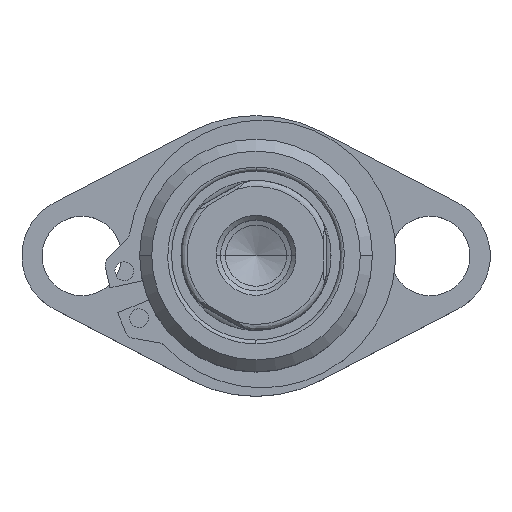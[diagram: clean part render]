
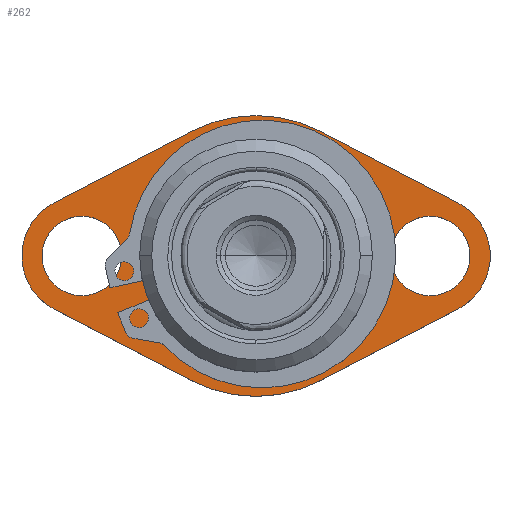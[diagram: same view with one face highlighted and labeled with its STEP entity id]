
A CAD part, top view. The second image highlights one B-rep face of the part: STEP entity #262.
In plain terms, the highlighted planar face has unit normal (0, 0, 1) as drawn and (0, 1, 0) by its records, which use the part's own axes.
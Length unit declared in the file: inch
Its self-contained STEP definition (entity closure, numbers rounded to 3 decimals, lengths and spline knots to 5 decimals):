
#82 = VERTEX_POINT ( 'NONE', #3162 ) ;
#120 = CARTESIAN_POINT ( 'NONE',  ( -0.43123, 0.25, -0.82962 ) ) ;
#127 = CARTESIAN_POINT ( 'NONE',  ( -1.16, 0.25, 0. ) ) ;
#140 = ORIENTED_EDGE ( 'NONE', *, *, #318, .F. ) ;
#168 = ORIENTED_EDGE ( 'NONE', *, *, #2262, .T. ) ;
#173 = CARTESIAN_POINT ( 'NONE',  ( -1.16, 0.25, -0.265 ) ) ;
#251 = EDGE_CURVE ( 'NONE', #355, #4734, #4829, .T. ) ;
#262 = ADVANCED_FACE ( 'NONE', ( #885, #1695, #4458, #4526 ), #2092, .T. ) ;
#266 = AXIS2_PLACEMENT_3D ( 'NONE', #3264, #2133, #3680 ) ;
#299 = AXIS2_PLACEMENT_3D ( 'NONE', #3483, #4636, #1093 ) ;
#302 = CARTESIAN_POINT ( 'NONE',  ( 0.43123, 0.25, 0.82962 ) ) ;
#309 = EDGE_CURVE ( 'NONE', #82, #2318, #3432, .T. ) ;
#318 = EDGE_CURVE ( 'NONE', #82, #3837, #4950, .T. ) ;
#351 = EDGE_CURVE ( 'NONE', #1762, #3799, #4335, .T. ) ;
#355 = VERTEX_POINT ( 'NONE', #3709 ) ;
#537 = EDGE_CURVE ( 'NONE', #3799, #1762, #4259, .T. ) ;
#546 = CIRCLE ( 'NONE', #3890, 0.265 ) ;
#547 = CARTESIAN_POINT ( 'NONE',  ( -1.34448, 0.25, -0.35492 ) ) ;
#563 = DIRECTION ( 'NONE',  ( 0., -1., 0. ) ) ;
#591 = DIRECTION ( 'NONE',  ( 0., 0., -1. ) ) ;
#622 = CIRCLE ( 'NONE', #3688, 0.265 ) ;
#761 = CIRCLE ( 'NONE', #1559, 0.265 ) ;
#782 = ORIENTED_EDGE ( 'NONE', *, *, #251, .T. ) ;
#802 = DIRECTION ( 'NONE',  ( 0.887, 0., -0.461 ) ) ;
#806 = CIRCLE ( 'NONE', #4684, 0.935 ) ;
#858 = ORIENTED_EDGE ( 'NONE', *, *, #537, .T. ) ;
#885 = FACE_BOUND ( 'NONE', #1495, .T. ) ;
#951 = VERTEX_POINT ( 'NONE', #2620 ) ;
#1082 = DIRECTION ( 'NONE',  ( 0., -1., 0. ) ) ;
#1093 = DIRECTION ( 'NONE',  ( 0., 0., -1. ) ) ;
#1144 = ORIENTED_EDGE ( 'NONE', *, *, #3356, .T. ) ;
#1199 = CARTESIAN_POINT ( 'NONE',  ( 0., 0.25, 0. ) ) ;
#1220 = CARTESIAN_POINT ( 'NONE',  ( 1.16, 0.25, 0.265 ) ) ;
#1257 = VECTOR ( 'NONE', #3740, 39.37008 ) ;
#1262 = CARTESIAN_POINT ( 'NONE',  ( -1.16, 0.25, 0. ) ) ;
#1322 = DIRECTION ( 'NONE',  ( 0., 0., 1. ) ) ;
#1381 = CARTESIAN_POINT ( 'NONE',  ( 1.16, 0.25, 0. ) ) ;
#1384 = VECTOR ( 'NONE', #2939, 39.37008 ) ;
#1397 = CARTESIAN_POINT ( 'NONE',  ( 0., 0.25, -0.935 ) ) ;
#1421 = AXIS2_PLACEMENT_3D ( 'NONE', #1199, #4331, #4276 ) ;
#1486 = DIRECTION ( 'NONE',  ( 0., 0., -1. ) ) ;
#1495 = EDGE_LOOP ( 'NONE', ( #4787, #3236 ) ) ;
#1559 = AXIS2_PLACEMENT_3D ( 'NONE', #1262, #3260, #4808 ) ;
#1617 = CIRCLE ( 'NONE', #4044, 0.935 ) ;
#1638 = ORIENTED_EDGE ( 'NONE', *, *, #3750, .T. ) ;
#1659 = DIRECTION ( 'NONE',  ( 0., -1., 0. ) ) ;
#1695 = FACE_OUTER_BOUND ( 'NONE', #4869, .T. ) ;
#1755 = DIRECTION ( 'NONE',  ( 0., 0., -1. ) ) ;
#1757 = DIRECTION ( 'NONE',  ( 0., -1., 0. ) ) ;
#1762 = VERTEX_POINT ( 'NONE', #2073 ) ;
#1798 = DIRECTION ( 'NONE',  ( 0., -1., 0. ) ) ;
#1823 = VECTOR ( 'NONE', #802, 39.37008 ) ;
#1836 = CARTESIAN_POINT ( 'NONE',  ( 0., 0.25, 0. ) ) ;
#1981 = EDGE_CURVE ( 'NONE', #3001, #2532, #2197, .T. ) ;
#2014 = EDGE_LOOP ( 'NONE', ( #1638, #168 ) ) ;
#2073 = CARTESIAN_POINT ( 'NONE',  ( 0., 0.25, 0.775 ) ) ;
#2092 = PLANE ( 'NONE',  #2439 ) ;
#2103 = EDGE_LOOP ( 'NONE', ( #858, #2219 ) ) ;
#2133 = DIRECTION ( 'NONE',  ( 0., -1., 0. ) ) ;
#2137 = EDGE_CURVE ( 'NONE', #3784, #4734, #806, .T. ) ;
#2146 = CARTESIAN_POINT ( 'NONE',  ( -1.16, 0.25, 0. ) ) ;
#2197 = LINE ( 'NONE', #3207, #1823 ) ;
#2219 = ORIENTED_EDGE ( 'NONE', *, *, #351, .T. ) ;
#2262 = EDGE_CURVE ( 'NONE', #4343, #951, #4867, .T. ) ;
#2318 = VERTEX_POINT ( 'NONE', #3848 ) ;
#2439 = AXIS2_PLACEMENT_3D ( 'NONE', #3275, #3696, #1322 ) ;
#2451 = CARTESIAN_POINT ( 'NONE',  ( 0., 0.25, 0. ) ) ;
#2516 = EDGE_CURVE ( 'NONE', #4442, #3159, #546, .T. ) ;
#2532 = VERTEX_POINT ( 'NONE', #3336 ) ;
#2620 = CARTESIAN_POINT ( 'NONE',  ( 1.16, 0.25, -0.265 ) ) ;
#2681 = ORIENTED_EDGE ( 'NONE', *, *, #1981, .T. ) ;
#2854 = DIRECTION ( 'NONE',  ( 0., 0., -1. ) ) ;
#2861 = ORIENTED_EDGE ( 'NONE', *, *, #3298, .F. ) ;
#2939 = DIRECTION ( 'NONE',  ( -0.887, 0., -0.461 ) ) ;
#2961 = DIRECTION ( 'NONE',  ( 0., 0., -1. ) ) ;
#2977 = CARTESIAN_POINT ( 'NONE',  ( 0., 0.25, -0.775 ) ) ;
#3001 = VERTEX_POINT ( 'NONE', #302 ) ;
#3159 = VERTEX_POINT ( 'NONE', #4694 ) ;
#3162 = CARTESIAN_POINT ( 'NONE',  ( -1.34448, 0.25, 0.35492 ) ) ;
#3207 = CARTESIAN_POINT ( 'NONE',  ( 0.43123, 0.25, 0.82962 ) ) ;
#3236 = ORIENTED_EDGE ( 'NONE', *, *, #3665, .T. ) ;
#3248 = VECTOR ( 'NONE', #4101, 39.37008 ) ;
#3260 = DIRECTION ( 'NONE',  ( 0., -1., 0. ) ) ;
#3264 = CARTESIAN_POINT ( 'NONE',  ( 1.16, 0.25, 0. ) ) ;
#3275 = CARTESIAN_POINT ( 'NONE',  ( 0., 0.25, 0. ) ) ;
#3283 = DIRECTION ( 'NONE',  ( 0., -1., 0. ) ) ;
#3298 = EDGE_CURVE ( 'NONE', #355, #2532, #5072, .T. ) ;
#3336 = CARTESIAN_POINT ( 'NONE',  ( 1.34448, 0.25, 0.35492 ) ) ;
#3355 = DIRECTION ( 'NONE',  ( 0., -1., 0. ) ) ;
#3356 = EDGE_CURVE ( 'NONE', #3710, #3837, #4326, .T. ) ;
#3401 = AXIS2_PLACEMENT_3D ( 'NONE', #1836, #1798, #3413 ) ;
#3413 = DIRECTION ( 'NONE',  ( 0., 0., -1. ) ) ;
#3432 = LINE ( 'NONE', #3683, #3248 ) ;
#3483 = CARTESIAN_POINT ( 'NONE',  ( 1.16, 0.25, 0. ) ) ;
#3514 = CARTESIAN_POINT ( 'NONE',  ( 0.43123, 0.25, -0.82962 ) ) ;
#3619 = CARTESIAN_POINT ( 'NONE',  ( 0.43123, 0.25, -0.82962 ) ) ;
#3626 = ORIENTED_EDGE ( 'NONE', *, *, #4918, .F. ) ;
#3665 = EDGE_CURVE ( 'NONE', #3159, #4442, #761, .T. ) ;
#3680 = DIRECTION ( 'NONE',  ( 0., 0., -1. ) ) ;
#3683 = CARTESIAN_POINT ( 'NONE',  ( -1.34448, 0.25, 0.35492 ) ) ;
#3688 = AXIS2_PLACEMENT_3D ( 'NONE', #1381, #3355, #591 ) ;
#3696 = DIRECTION ( 'NONE',  ( 0., 1., 0. ) ) ;
#3709 = CARTESIAN_POINT ( 'NONE',  ( 1.34448, 0.25, -0.35492 ) ) ;
#3710 = VERTEX_POINT ( 'NONE', #120 ) ;
#3740 = DIRECTION ( 'NONE',  ( -0.887, 0., 0.461 ) ) ;
#3750 = EDGE_CURVE ( 'NONE', #951, #4343, #622, .T. ) ;
#3784 = VERTEX_POINT ( 'NONE', #1397 ) ;
#3799 = VERTEX_POINT ( 'NONE', #2977 ) ;
#3830 = CARTESIAN_POINT ( 'NONE',  ( 0., 0.25, 0. ) ) ;
#3837 = VERTEX_POINT ( 'NONE', #4510 ) ;
#3848 = CARTESIAN_POINT ( 'NONE',  ( -0.43123, 0.25, 0.82962 ) ) ;
#3890 = AXIS2_PLACEMENT_3D ( 'NONE', #2146, #1757, #2961 ) ;
#4044 = AXIS2_PLACEMENT_3D ( 'NONE', #4060, #3283, #1755 ) ;
#4060 = CARTESIAN_POINT ( 'NONE',  ( 0., 0.25, 0. ) ) ;
#4074 = AXIS2_PLACEMENT_3D ( 'NONE', #127, #563, #4464 ) ;
#4084 = ORIENTED_EDGE ( 'NONE', *, *, #2137, .F. ) ;
#4101 = DIRECTION ( 'NONE',  ( 0.887, 0., 0.461 ) ) ;
#4167 = EDGE_CURVE ( 'NONE', #3710, #3784, #4870, .T. ) ;
#4259 = CIRCLE ( 'NONE', #4968, 0.775 ) ;
#4276 = DIRECTION ( 'NONE',  ( 0., 0., -1. ) ) ;
#4326 = LINE ( 'NONE', #547, #1257 ) ;
#4331 = DIRECTION ( 'NONE',  ( 0., -1., 0. ) ) ;
#4335 = CIRCLE ( 'NONE', #3401, 0.775 ) ;
#4343 = VERTEX_POINT ( 'NONE', #1220 ) ;
#4396 = ORIENTED_EDGE ( 'NONE', *, *, #4167, .F. ) ;
#4442 = VERTEX_POINT ( 'NONE', #173 ) ;
#4458 = FACE_BOUND ( 'NONE', #2014, .T. ) ;
#4464 = DIRECTION ( 'NONE',  ( 0., 0., -1. ) ) ;
#4510 = CARTESIAN_POINT ( 'NONE',  ( -1.34448, 0.25, -0.35492 ) ) ;
#4526 = FACE_BOUND ( 'NONE', #2103, .T. ) ;
#4636 = DIRECTION ( 'NONE',  ( 0., -1., 0. ) ) ;
#4684 = AXIS2_PLACEMENT_3D ( 'NONE', #2451, #1659, #2854 ) ;
#4694 = CARTESIAN_POINT ( 'NONE',  ( -1.16, 0.25, 0.265 ) ) ;
#4734 = VERTEX_POINT ( 'NONE', #3514 ) ;
#4787 = ORIENTED_EDGE ( 'NONE', *, *, #2516, .T. ) ;
#4808 = DIRECTION ( 'NONE',  ( 0., 0., -1. ) ) ;
#4829 = LINE ( 'NONE', #3619, #1384 ) ;
#4867 = CIRCLE ( 'NONE', #299, 0.265 ) ;
#4869 = EDGE_LOOP ( 'NONE', ( #140, #4903, #3626, #2681, #2861, #782, #4084, #4396, #1144 ) ) ;
#4870 = CIRCLE ( 'NONE', #1421, 0.935 ) ;
#4903 = ORIENTED_EDGE ( 'NONE', *, *, #309, .T. ) ;
#4918 = EDGE_CURVE ( 'NONE', #3001, #2318, #1617, .T. ) ;
#4950 = CIRCLE ( 'NONE', #4074, 0.4 ) ;
#4968 = AXIS2_PLACEMENT_3D ( 'NONE', #3830, #1082, #1486 ) ;
#5072 = CIRCLE ( 'NONE', #266, 0.4 ) ;
